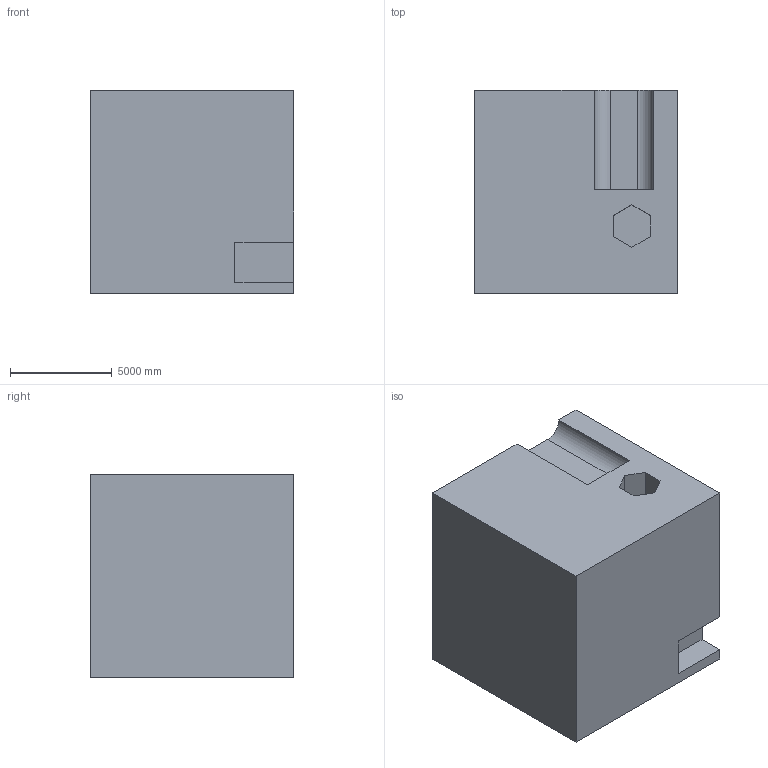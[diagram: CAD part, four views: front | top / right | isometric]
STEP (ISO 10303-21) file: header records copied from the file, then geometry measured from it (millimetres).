
FILE_DESCRIPTION (( 'STEP AP203' ), '1' );
FILE_NAME ('482.STEP', '2022-07-29T11:27:38', ( 'user' ), ( '' ), 'SwSTEP 2.0', 'SolidWorks 2021', '' );
FILE_SCHEMA (( 'CONFIG_CONTROL_DESIGN' ));
Length unit declared in the file: centimetre
Products named in the file (1): 482
Bounding box: 10000 x 10000 x 10000 mm (x, y, z)
Volume: 943516302432.7 mm3; surface area: 686195631.2 mm2
Topology: 1 solids, 1 shells, 28 faces, 69 edges, 46 vertices
Faces by surface type: plane 24, cylinder 4
Entity records: 898 total; most frequent: CARTESIAN_POINT 144, ORIENTED_EDGE 138, DIRECTION 135, EDGE_CURVE 69, VECTOR 61, LINE 61, VERTEX_POINT 46, AXIS2_PLACEMENT_3D 37
